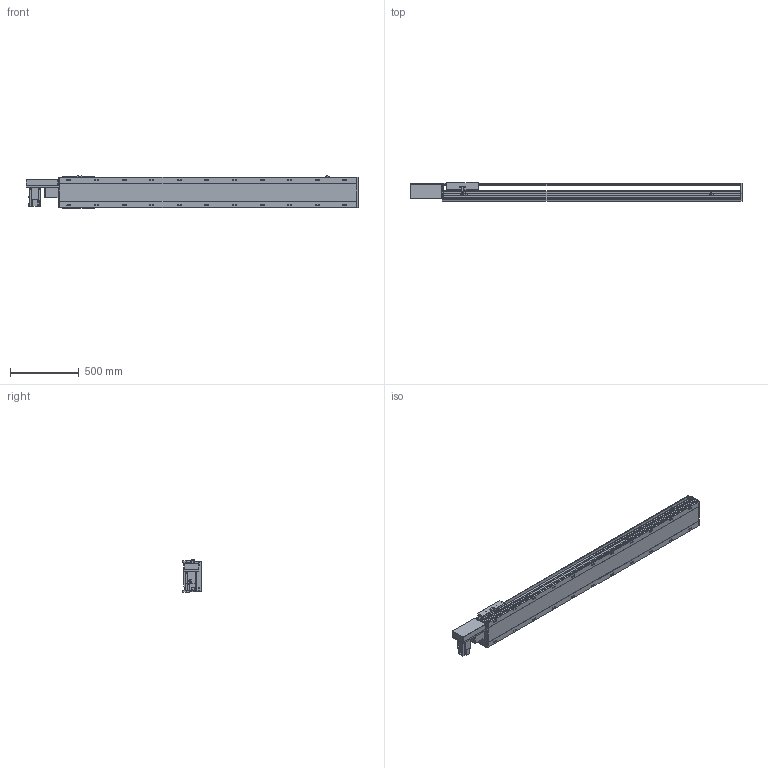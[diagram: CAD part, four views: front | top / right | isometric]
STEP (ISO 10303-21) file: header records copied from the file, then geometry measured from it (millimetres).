
FILE_DESCRIPTION(/* description */ ('STEP AP214'),/* implementation_level */ '2;1');
FILE_NAME(/* name */ 'PBS220-P40-S1800-R-T75-C1-N(0)',/* time_stamp */ '2022-06-11T10:01:58+02:00',/* author */ ('License CC BY-ND 4.0'),/* organization */ ('CADENAS'),/* preprocessor_version */ 'ST-DEVELOPER v18.102',/* originating_system */ 'PARTsolutions',/* authorisation */ ' ');
FILE_SCHEMA (('AUTOMOTIVE_DESIGN {1 0 10303 214 3 1 1}'));
Length unit declared in the file: millimetre
Products named in the file (7): PBS220-P40-S1800-R-T75-C1-N(0); PBS220_sensor; PBS220_plant; PBS220_sliser; T75-p1; PBS220T-R_motors; PBS220-S1800()_body
Assembly tree (8 placements, depth 2):
  PBS220-P40-S1800-R-T75-C1-N(0)
    PBS220_sensor  x3
    PBS220_plant
    PBS220_sliser
    T75-p1
    PBS220T-R_motors
    PBS220-S1800()_body
Bounding box: 2406 x 134 x 238.5 mm (x, y, z)
Volume: 32235829.6 mm3; surface area: 3015723.8 mm2
Topology: 8 solids, 8 shells, 950 faces, 2480 edges, 1612 vertices
Faces by surface type: plane 610, cylinder 294, cone 46
Full cylindrical faces by diameter (mm): 2.013 x4, 4.5 x14, 4.917 x4, 6 x7, 6.647 x8, 8 x10, 8.376 x22, 8.5 x22, 10 x6, 14 x22, 38 x2, 40 x1, 70 x1
Entity records: 26565 total; most frequent: CARTESIAN_POINT 4690, DIRECTION 4617, ORIENTED_EDGE 4214, EDGE_CURVE 2107, AXIS2_PLACEMENT_3D 1633, VERTEX_POINT 1464, LINE 1351, VECTOR 1351
